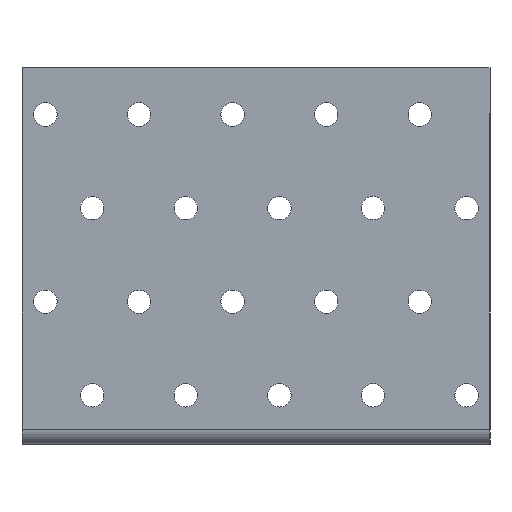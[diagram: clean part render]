
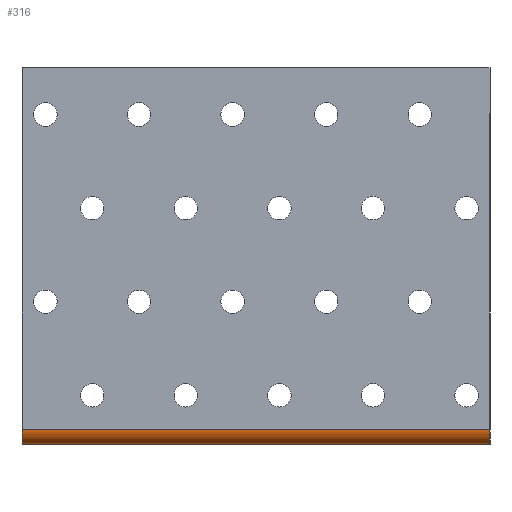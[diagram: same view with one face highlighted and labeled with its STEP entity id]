
A CAD part, front view. The second image highlights one B-rep face of the part: STEP entity #316.
In plain terms, the highlighted cylindrical face has radius 3.237 mm (diameter 6.473 mm), a partial arc.
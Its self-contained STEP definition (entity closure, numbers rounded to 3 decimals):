
#132 = VERTEX_POINT ( 'NONE', #691 ) ;
#182 = CARTESIAN_POINT ( 'NONE',  ( 0., 0.737, -77.225 ) ) ;
#237 = CARTESIAN_POINT ( 'NONE',  ( -50.043, 0.737, -77.225 ) ) ;
#249 = EDGE_CURVE ( 'NONE', #2952, #132, #846, .T. ) ;
#316 = ADVANCED_FACE ( 'NONE', ( #1525 ), #3376, .T. ) ;
#319 = ORIENTED_EDGE ( 'NONE', *, *, #249, .T. ) ;
#511 = DIRECTION ( 'NONE',  ( 0., 0., -1. ) ) ;
#650 = CARTESIAN_POINT ( 'NONE',  ( 0., 0.737, -80.462 ) ) ;
#690 = EDGE_CURVE ( 'NONE', #2738, #2952, #2206, .T. ) ;
#691 = CARTESIAN_POINT ( 'NONE',  ( 100., -2.5, -77.225 ) ) ;
#707 = DIRECTION ( 'NONE',  ( 0., -1., 0. ) ) ;
#846 = CIRCLE ( 'NONE', #1850, 3.237 ) ;
#942 = VECTOR ( 'NONE', #2752, 1000. ) ;
#996 = VECTOR ( 'NONE', #3046, 1000. ) ;
#1162 = CARTESIAN_POINT ( 'NONE',  ( 0., -2.5, -77.225 ) ) ;
#1312 = EDGE_LOOP ( 'NONE', ( #3352, #319, #2612, #2702 ) ) ;
#1407 = CARTESIAN_POINT ( 'NONE',  ( 0., 0.737, -80.462 ) ) ;
#1427 = CIRCLE ( 'NONE', #2243, 3.237 ) ;
#1477 = CARTESIAN_POINT ( 'NONE',  ( 100., 0.737, -80.462 ) ) ;
#1509 = CARTESIAN_POINT ( 'NONE',  ( 0., -2.5, -77.225 ) ) ;
#1525 = FACE_OUTER_BOUND ( 'NONE', #1312, .T. ) ;
#1749 = DIRECTION ( 'NONE',  ( 1., 0., 0. ) ) ;
#1850 = AXIS2_PLACEMENT_3D ( 'NONE', #3113, #2325, #511 ) ;
#2206 = LINE ( 'NONE', #650, #942 ) ;
#2243 = AXIS2_PLACEMENT_3D ( 'NONE', #182, #1749, #707 ) ;
#2283 = DIRECTION ( 'NONE',  ( 1., 0., 0. ) ) ;
#2325 = DIRECTION ( 'NONE',  ( -1., 0., 0. ) ) ;
#2612 = ORIENTED_EDGE ( 'NONE', *, *, #3182, .F. ) ;
#2702 = ORIENTED_EDGE ( 'NONE', *, *, #2953, .T. ) ;
#2738 = VERTEX_POINT ( 'NONE', #1407 ) ;
#2752 = DIRECTION ( 'NONE',  ( 1., 0., 0. ) ) ;
#2753 = VERTEX_POINT ( 'NONE', #1162 ) ;
#2795 = AXIS2_PLACEMENT_3D ( 'NONE', #237, #2283, #3338 ) ;
#2952 = VERTEX_POINT ( 'NONE', #1477 ) ;
#2953 = EDGE_CURVE ( 'NONE', #2753, #2738, #1427, .T. ) ;
#3046 = DIRECTION ( 'NONE',  ( 1., 0., 0. ) ) ;
#3113 = CARTESIAN_POINT ( 'NONE',  ( 100., 0.737, -77.225 ) ) ;
#3182 = EDGE_CURVE ( 'NONE', #2753, #132, #3240, .T. ) ;
#3240 = LINE ( 'NONE', #1509, #996 ) ;
#3338 = DIRECTION ( 'NONE',  ( 0., 0., -1. ) ) ;
#3352 = ORIENTED_EDGE ( 'NONE', *, *, #690, .T. ) ;
#3376 = CYLINDRICAL_SURFACE ( 'NONE', #2795, 3.237 ) ;
